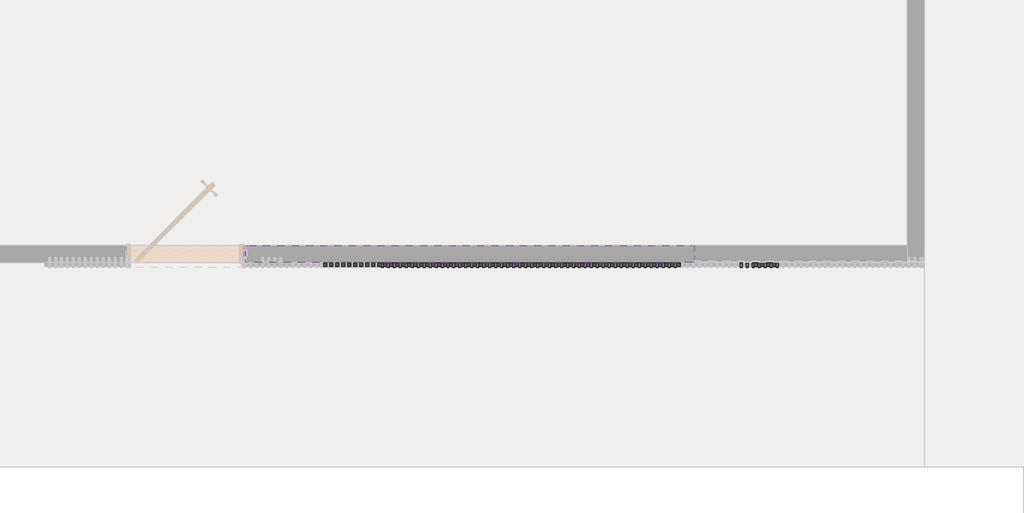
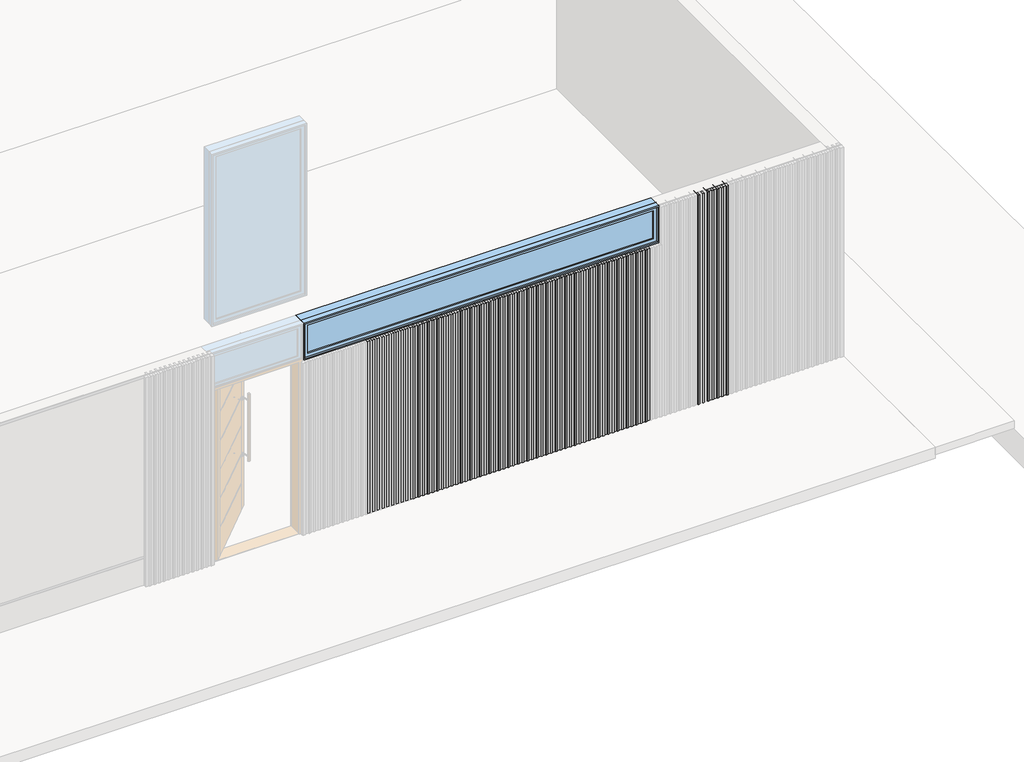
# One storey, part 3 of 4: 64 members, 57 plates, 1 window.
"""IFC4 building model written with IfcOpenShell, lengths in millimetres."""

import ifcopenshell
import ifcopenshell.guid

model = None  # the IFC model being written
_history = None  # IfcOwnerHistory: only IFC2X3 demands one
_inside = {}  # id of a spatial element -> (the spatial element, [elements in it])
_under = {}  # id of a project, library or spatial element -> (it, [spatial elements below it])
_declared = {}  # id of a project -> (the project, [libraries it declares])
_typed = {}  # id of a type object -> (the type object, [elements of that type])
_made_of = {}  # id of a material, layer set ... -> (it, [elements and type objects made of it])


def new_model(schema):
    """Start an empty IFC model of exactly this schema.

    Asked for "IFC4X3", IfcOpenShell would pick the latest addendum, in which some entities
    have other attributes; the version numbers below select the first issue.
    IFC2X3 requires an IfcOwnerHistory on every rooted entity: one is made here for all.
    """
    global model, _history
    if schema == "IFC4X3":
        model = ifcopenshell.file(schema_version=(4, 3, 0, 0))
    else:
        model = ifcopenshell.file(schema=schema)
    _inside.clear()
    _under.clear()
    _declared.clear()
    _typed.clear()
    _made_of.clear()
    _history = None
    if model.schema == "IFC2X3":
        org = make("IfcOrganization", Name="unknown")
        user = make(
            "IfcPersonAndOrganization",
            ThePerson=make("IfcPerson", FamilyName="unknown"),
            TheOrganization=org,
        )
        app = make(
            "IfcApplication",
            ApplicationDeveloper=org,
            Version="unknown",
            ApplicationFullName="unknown",
            ApplicationIdentifier="unknown",
        )
        _history = make(
            "IfcOwnerHistory",
            OwningUser=user,
            OwningApplication=app,
            ChangeAction="ADDED",
            CreationDate=0,
        )
    return model


def make(cls, **values):
    """One entity of the class cls with the attributes given. An attribute that is None is left unset."""
    return model.create_entity(
        cls, **{name: value for name, value in values.items() if value is not None}
    )


def rooted(cls, **values):
    """An entity with a GlobalId (a new one), such as an element, a storey or a relation."""
    return make(cls, GlobalId=ifcopenshell.guid.new(), OwnerHistory=_history, **values)


def si_unit(unit_type, name, prefix=None):
    """IfcSIUnit, for example si_unit("LENGTHUNIT", "METRE", prefix="MILLI")."""
    return make("IfcSIUnit", UnitType=unit_type, Prefix=prefix, Name=name)


def assignment(units):
    """IfcUnitAssignment: the units of a project."""
    return None if units is None else make("IfcUnitAssignment", Units=units)


def point(xyz):
    """IfcCartesianPoint."""
    return None if xyz is None else make("IfcCartesianPoint", Coordinates=xyz)


def direction(xyz):
    """IfcDirection."""
    return None if xyz is None else make("IfcDirection", DirectionRatios=xyz)


def frame(location, z_axis=None, x_axis=None):
    """IfcAxis2Placement3D, a coordinate frame: its origin and axes. An axis left out is left unset."""
    return make(
        "IfcAxis2Placement3D",
        Location=point(location),
        Axis=direction(z_axis),
        RefDirection=direction(x_axis),
    )


def origin():
    """The frame at (0, 0, 0) with its axes left unset."""
    return frame((0.0, 0.0, 0.0))


def origin_with_axes():
    """The frame at (0, 0, 0) with the z axis (0, 0, 1) and the x axis (1, 0, 0) written out."""
    return frame((0.0, 0.0, 0.0), z_axis=(0.0, 0.0, 1.0), x_axis=(1.0, 0.0, 0.0))


def place(relative_to, where):
    """IfcLocalPlacement: puts the frame where relative to a parent placement (None: the world)."""
    return make(
        "IfcLocalPlacement", PlacementRelTo=relative_to, RelativePlacement=where
    )


def context(
    kind, dimensions, precision=None, world=None, true_north=None, identifier=None
):
    """IfcGeometricRepresentationContext, for example the 3D "Model" context."""
    return make(
        "IfcGeometricRepresentationContext",
        ContextIdentifier=identifier,
        ContextType=kind,
        CoordinateSpaceDimension=dimensions,
        Precision=precision,
        WorldCoordinateSystem=world,
        TrueNorth=true_north,
    )


def project(units=None, contexts=None):
    """IfcProject with its units and contexts."""
    return rooted(
        "IfcProject",
        Name="project",
        RepresentationContexts=contexts,
        UnitsInContext=assignment(units),
    )


def spatial(cls, under=None, at=None, **own):
    """A site, building, storey or space (cls), placed at a placement, below another one or the project."""
    s = rooted(cls, ObjectPlacement=at, **own)
    if under is not None:
        _under.setdefault(under.id(), (under, []))[1].append(s)
    return s


def polyline(points):
    """IfcPolyline through the points."""
    return make("IfcPolyline", Points=[point(p) for p in points])


def outline(outer, holes=None, kind="AREA"):
    """IfcArbitraryClosedProfileDef: a profile drawn as a closed curve; with holes, ...WithVoids."""
    if holes is None:
        return make("IfcArbitraryClosedProfileDef", ProfileType=kind, OuterCurve=outer)
    return make(
        "IfcArbitraryProfileDefWithVoids",
        ProfileType=kind,
        OuterCurve=outer,
        InnerCurves=holes,
    )


def extrude(swept, where, along, depth):
    """IfcExtrudedAreaSolid: the profile swept, set in the frame where, extruded along a direction by depth."""
    return make(
        "IfcExtrudedAreaSolid",
        SweptArea=swept,
        Position=where,
        ExtrudedDirection=direction(along),
        Depth=depth,
    )


def shape(context_of_items, identifier, shape_type, items):
    """IfcShapeRepresentation: the items that make up one representation, for example the "Body"."""
    return make(
        "IfcShapeRepresentation",
        ContextOfItems=context_of_items,
        RepresentationIdentifier=identifier,
        RepresentationType=shape_type,
        Items=items,
    )


def source(mapping_origin, context_of_items, identifier, shape_type, items):
    """IfcRepresentationMap: a shape defined once, which mapped items show again and again."""
    return make(
        "IfcRepresentationMap",
        MappingOrigin=mapping_origin,
        MappedRepresentation=shape(context_of_items, identifier, shape_type, items),
    )


def transform(
    local_origin,
    x_axis=None,
    y_axis=None,
    z_axis=None,
    scale=None,
    scale2=None,
    scale3=None,
    uniform=True,
):
    """IfcCartesianTransformationOperator3D, or its non-uniform kind. x_axis, y_axis, z_axis: its Axis1, 2, 3."""
    if uniform:
        return make(
            "IfcCartesianTransformationOperator3D",
            Axis1=direction(x_axis),
            Axis2=direction(y_axis),
            LocalOrigin=point(local_origin),
            Scale=scale,
            Axis3=direction(z_axis),
        )
    return make(
        "IfcCartesianTransformationOperator3DnonUniform",
        Axis1=direction(x_axis),
        Axis2=direction(y_axis),
        LocalOrigin=point(local_origin),
        Scale=scale,
        Axis3=direction(z_axis),
        Scale2=scale2,
        Scale3=scale3,
    )


def mapped(mapping_source, mapping_target):
    """IfcMappedItem: shows the shape of a source again, moved by a transform."""
    return make(
        "IfcMappedItem", MappingSource=mapping_source, MappingTarget=mapping_target
    )


def made_of(thing, what):
    """Note that an element or type object is made of a material, layer set ...; save() writes the relation."""
    if what is not None:
        _made_of.setdefault(what.id(), (what, []))[1].append(thing)
    return thing


def element(
    cls,
    number,
    at=None,
    inside=None,
    cuts=None,
    type_object=None,
    material=None,
    context=None,
    identifier="Body",
    shape_type=None,
    held_by="IfcProductDefinitionShape",
    body=None,
    shapes=None,
    **own,
):
    """One element of the class cls, such as IfcWall. Its Tag is "e" and its number.

    at: its placement. inside: the storey or other place that contains it. cuts: it is an
    opening in that element (IfcRelVoidsElement). A single representation is given by context,
    identifier, shape_type and body (its items); several are given by shapes. held_by: the class
    of the entity that holds the representations. save() writes the other relations.
    """
    e = rooted(cls, Tag="e%d" % number, ObjectPlacement=at, **own)
    if body is not None:
        shapes = [shape(context, identifier, shape_type, body)]
    if shapes is not None:
        e.Representation = make(held_by, Representations=shapes)
    if inside is not None:
        _inside.setdefault(inside.id(), (inside, []))[1].append(e)
    if cuts is not None:
        rooted(
            "IfcRelVoidsElement", RelatingBuildingElement=cuts, RelatedOpeningElement=e
        )
    if type_object is not None:
        _typed.setdefault(type_object.id(), (type_object, []))[1].append(e)
    return made_of(e, material)


def aggregate(whole, parts):
    """IfcRelAggregates: a whole, such as a stair, and the parts it consists of."""
    return rooted("IfcRelAggregates", RelatingObject=whole, RelatedObjects=parts)


def save(model, path):
    """Write the relations noted so far, then the file.

    IfcRelAggregates (storeys below a building ...), IfcRelContainedInSpatialStructure (elements
    in a storey), IfcRelDefinesByType, IfcRelAssociatesMaterial and IfcRelDeclares: one each for
    every whole, place, type object, material and project.
    """
    for whole, parts in _under.values():
        aggregate(whole, parts)
    for where, things in _inside.values():
        rooted(
            "IfcRelContainedInSpatialStructure",
            RelatedElements=things,
            RelatingStructure=where,
        )
    for kind, things in _typed.values():
        rooted("IfcRelDefinesByType", RelatedObjects=things, RelatingType=kind)
    for what, things in _made_of.values():
        rooted("IfcRelAssociatesMaterial", RelatedObjects=things, RelatingMaterial=what)
    for by, libraries in _declared.values():
        rooted("IfcRelDeclares", RelatingContext=by, RelatedDefinitions=libraries)
    model.write(path)


def montante_retangular_912e170b(model_context):
    return source(origin(), model_context, "Body", "SweptSolid", [
        extrude(outline(polyline([(20.0, 40.0), (20.0, 0.0), (-20.0, 0.0), (-20.0, 40.0), (20.0, 40.0)])), frame((0.0, 0.0, -2800.0), z_axis=(0.0, 0.0, 1.0), x_axis=(1.0, 0.0, 0.0)), (0.0, 0.0, 1.0), 2800.0),
    ])


def montante_retangular_66be1dba(model_context):
    return source(origin(), model_context, "Body", "SweptSolid", [
        extrude(outline(polyline([(20.0, 40.0), (20.0, 0.0), (-20.0, 0.0), (-20.0, 40.0), (20.0, 40.0)])), frame((0.0, 0.0, -2300.0), z_axis=(0.0, 0.0, 1.0), x_axis=(1.0, 0.0, 0.0)), (0.0, 0.0, 1.0), 2300.0),
    ])


def painel_do_sistema_vazio_vazio_22f7d0d9(model_context):
    return source(origin(), model_context, "Body", "SweptSolid", [
        extrude(outline(polyline([(10.0, -50.0), (-10.0, -50.0), (-10.0, 50.0), (10.0, 50.0), (10.0, -50.0)])), origin_with_axes(), (0.0, 0.0, 1.0), 2800.0),
    ])


def painel_do_sistema_vazio_vazio_0f527706(model_context):
    return source(origin(), model_context, "Body", "SweptSolid", [
        extrude(outline(polyline([(10.0, -50.0), (-10.0, -50.0), (-10.0, 50.0), (10.0, 50.0), (10.0, -50.0)])), origin_with_axes(), (0.0, 0.0, 1.0), 2300.0),
    ])


def m_fixo_parede_completa_preta_0_5m_2_7aad5a8b(model_context):
    return source(origin(), model_context, "Body", "SweptSolid", [
        extrude(outline(polyline([(-2187.0, 62.0), (2187.0, 62.0), (2187.0, 50.0), (-2187.0, 50.0), (-2187.0, 62.0)])), frame((0.0, 0.0, 1563.0), z_axis=(0.0, 0.0, 1.0), x_axis=(1.0, 0.0, 0.0)), (0.0, 0.0, 1.0), 374.0),
        extrude(outline(polyline([(1981.0, -2231.0), (1519.0, -2231.0), (1519.0, 2231.0), (1981.0, 2231.0), (1981.0, -2231.0)]), holes=[polyline([(1937.0, -2187.0), (1937.0, 2187.0), (1563.0, 2187.0), (1563.0, -2187.0), (1937.0, -2187.0)])]), frame((0.0, 34.0, 0.0), z_axis=(0.0, 1.0, 0.0), x_axis=(0.0, 0.0, 1.0)), (0.0, 0.0, 1.0), 44.0),
        extrude(outline(polyline([(2000.0, -2250.0), (1500.0, -2250.0), (1500.0, 2250.0), (2000.0, 2250.0), (2000.0, -2250.0)]), holes=[polyline([(1981.0, -2231.0), (1981.0, 2231.0), (1519.0, 2231.0), (1519.0, -2231.0), (1981.0, -2231.0)])]), frame((0.0, 34.0, 0.0), z_axis=(0.0, 1.0, 0.0), x_axis=(0.0, 0.0, 1.0)), (0.0, 0.0, 1.0), 64.0),
        extrude(outline(polyline([(2000.0, -2250.0), (1500.0, -2250.0), (1500.0, 2250.0), (2000.0, 2250.0), (2000.0, -2250.0)]), holes=[polyline([(1968.0, -2218.0), (1968.0, 2218.0), (1532.0, 2218.0), (1532.0, -2218.0), (1968.0, -2218.0)])]), frame((0.0, -72.0, 0.0), z_axis=(0.0, 1.0, 0.0), x_axis=(0.0, 0.0, 1.0)), (0.0, 0.0, 1.0), 106.0),
    ])


model = new_model("IFC4")

# Units and contexts
model_context = context("Model", 3, world=origin())
ifc_project = project(units=[si_unit("LENGTHUNIT", "METRE", prefix="MILLI")], contexts=[model_context])

# Site, building, storey
site = spatial("IfcSite", under=ifc_project)
building = spatial("IfcBuilding", under=site)
storey = spatial("IfcBuildingStorey", under=building, Name="TÉRREO", Elevation=100.0)

# Members
placement = place(None, origin())
montante_retangular_shape = montante_retangular_912e170b(model_context)
element("IfcMember", 1, ObjectType="Montante retangular : RIPADO CUMARU 4x4", at=placement, inside=storey, context=model_context, shape_type="MappedRepresentation", body=[
    mapped(montante_retangular_shape, transform((-1166.5118358, -3183.0556256, 100.0), x_axis=(1.0, 0.0, 0.0), y_axis=(0.0, -1.0, 0.0), z_axis=(0.0, 0.0, -1.0))),
])
element("IfcMember", 2, ObjectType="Montante retangular : RIPADO CUMARU 4x4", at=placement, inside=storey, context=model_context, shape_type="MappedRepresentation", body=[
    mapped(montante_retangular_shape, transform((-1106.5118358, -3183.0556256, 100.0), x_axis=(1.0, 0.0, 0.0), y_axis=(0.0, -1.0, 0.0), z_axis=(0.0, 0.0, -1.0))),
])
element("IfcMember", 3, ObjectType="Montante retangular : RIPADO CUMARU 4x4", at=placement, inside=storey, context=model_context, shape_type="MappedRepresentation", body=[
    mapped(montante_retangular_shape, transform((-1046.5118358, -3183.0556256, 100.0), x_axis=(1.0, 0.0, 0.0), y_axis=(0.0, -1.0, 0.0), z_axis=(0.0, 0.0, -1.0))),
])
element("IfcMember", 4, ObjectType="Montante retangular : RIPADO CUMARU 4x4", at=placement, inside=storey, context=model_context, shape_type="MappedRepresentation", body=[
    mapped(montante_retangular_shape, transform((-1226.5118358, -3183.0556256, 100.0), x_axis=(1.0, 0.0, 0.0), y_axis=(0.0, -1.0, 0.0), z_axis=(0.0, 0.0, -1.0))),
])
montante_retangular_2_shape = montante_retangular_66be1dba(model_context)
element("IfcMember", 5, ObjectType="Montante retangular : RIPADO CUMARU 4x4", at=placement, inside=storey, context=model_context, shape_type="MappedRepresentation", body=[
    mapped(montante_retangular_2_shape, transform((-5551.5118352, -3183.0556256, 100.0), x_axis=(1.0, 0.0, 0.0), y_axis=(0.0, -1.0, 0.0), z_axis=(0.0, 0.0, -1.0))),
])
element("IfcMember", 6, ObjectType="Montante retangular : RIPADO CUMARU 4x4", at=placement, inside=storey, context=model_context, shape_type="MappedRepresentation", body=[
    mapped(montante_retangular_2_shape, transform((-5491.5118352, -3183.0556256, 100.0), x_axis=(1.0, 0.0, 0.0), y_axis=(0.0, -1.0, 0.0), z_axis=(0.0, 0.0, -1.0))),
])
element("IfcMember", 7, ObjectType="Montante retangular : RIPADO CUMARU 4x4", at=placement, inside=storey, context=model_context, shape_type="MappedRepresentation", body=[
    mapped(montante_retangular_2_shape, transform((-5431.5118352, -3183.0556256, 100.0), x_axis=(1.0, 0.0, 0.0), y_axis=(0.0, -1.0, 0.0), z_axis=(0.0, 0.0, -1.0))),
])
element("IfcMember", 8, ObjectType="Montante retangular : RIPADO CUMARU 4x4", at=placement, inside=storey, context=model_context, shape_type="MappedRepresentation", body=[
    mapped(montante_retangular_2_shape, transform((-5371.5118352, -3183.0556256, 100.0), x_axis=(1.0, 0.0, 0.0), y_axis=(0.0, -1.0, 0.0), z_axis=(0.0, 0.0, -1.0))),
])
element("IfcMember", 9, ObjectType="Montante retangular : RIPADO CUMARU 4x4", at=placement, inside=storey, context=model_context, shape_type="MappedRepresentation", body=[
    mapped(montante_retangular_2_shape, transform((-5311.5118352, -3183.0556256, 100.0), x_axis=(1.0, 0.0, 0.0), y_axis=(0.0, -1.0, 0.0), z_axis=(0.0, 0.0, -1.0))),
])
element("IfcMember", 10, ObjectType="Montante retangular : RIPADO CUMARU 4x4", at=placement, inside=storey, context=model_context, shape_type="MappedRepresentation", body=[
    mapped(montante_retangular_2_shape, transform((-5251.5118352, -3183.0556256, 100.0), x_axis=(1.0, 0.0, 0.0), y_axis=(0.0, -1.0, 0.0), z_axis=(0.0, 0.0, -1.0))),
])
element("IfcMember", 11, ObjectType="Montante retangular : RIPADO CUMARU 4x4", at=placement, inside=storey, context=model_context, shape_type="MappedRepresentation", body=[
    mapped(montante_retangular_2_shape, transform((-5191.5118352, -3183.0556256, 100.0), x_axis=(1.0, 0.0, 0.0), y_axis=(0.0, -1.0, 0.0), z_axis=(0.0, 0.0, -1.0))),
])
element("IfcMember", 12, ObjectType="Montante retangular : RIPADO CUMARU 4x4", at=placement, inside=storey, context=model_context, shape_type="MappedRepresentation", body=[
    mapped(montante_retangular_2_shape, transform((-5131.5118352, -3183.0556256, 100.0), x_axis=(1.0, 0.0, 0.0), y_axis=(0.0, -1.0, 0.0), z_axis=(0.0, 0.0, -1.0))),
])
element("IfcMember", 13, ObjectType="Montante retangular : RIPADO CUMARU 4x4", at=placement, inside=storey, context=model_context, shape_type="MappedRepresentation", body=[
    mapped(montante_retangular_2_shape, transform((-5071.5118352, -3183.0556256, 100.0), x_axis=(1.0, 0.0, 0.0), y_axis=(0.0, -1.0, 0.0), z_axis=(0.0, 0.0, -1.0))),
])
element("IfcMember", 14, ObjectType="Montante retangular : RIPADO CUMARU 4x4", at=placement, inside=storey, context=model_context, shape_type="MappedRepresentation", body=[
    mapped(montante_retangular_2_shape, transform((-5011.5118352, -3183.0556256, 100.0), x_axis=(1.0, 0.0, 0.0), y_axis=(0.0, -1.0, 0.0), z_axis=(0.0, 0.0, -1.0))),
])
element("IfcMember", 15, ObjectType="Montante retangular : RIPADO CUMARU 4x4", at=placement, inside=storey, context=model_context, shape_type="MappedRepresentation", body=[
    mapped(montante_retangular_2_shape, transform((-4951.5118352, -3183.0556256, 100.0), x_axis=(1.0, 0.0, 0.0), y_axis=(0.0, -1.0, 0.0), z_axis=(0.0, 0.0, -1.0))),
])
element("IfcMember", 16, ObjectType="Montante retangular : RIPADO CUMARU 4x4", at=placement, inside=storey, context=model_context, shape_type="MappedRepresentation", body=[
    mapped(montante_retangular_2_shape, transform((-4891.5118352, -3183.0556256, 100.0), x_axis=(1.0, 0.0, 0.0), y_axis=(0.0, -1.0, 0.0), z_axis=(0.0, 0.0, -1.0))),
])
element("IfcMember", 17, ObjectType="Montante retangular : RIPADO CUMARU 4x4", at=placement, inside=storey, context=model_context, shape_type="MappedRepresentation", body=[
    mapped(montante_retangular_2_shape, transform((-4831.5118352, -3183.0556256, 100.0), x_axis=(1.0, 0.0, 0.0), y_axis=(0.0, -1.0, 0.0), z_axis=(0.0, 0.0, -1.0))),
])
element("IfcMember", 18, ObjectType="Montante retangular : RIPADO CUMARU 4x4", at=placement, inside=storey, context=model_context, shape_type="MappedRepresentation", body=[
    mapped(montante_retangular_2_shape, transform((-4771.5118352, -3183.0556256, 100.0), x_axis=(1.0, 0.0, 0.0), y_axis=(0.0, -1.0, 0.0), z_axis=(0.0, 0.0, -1.0))),
])
element("IfcMember", 19, ObjectType="Montante retangular : RIPADO CUMARU 4x4", at=placement, inside=storey, context=model_context, shape_type="MappedRepresentation", body=[
    mapped(montante_retangular_2_shape, transform((-4711.5118352, -3183.0556256, 100.0), x_axis=(1.0, 0.0, 0.0), y_axis=(0.0, -1.0, 0.0), z_axis=(0.0, 0.0, -1.0))),
])
element("IfcMember", 20, ObjectType="Montante retangular : RIPADO CUMARU 4x4", at=placement, inside=storey, context=model_context, shape_type="MappedRepresentation", body=[
    mapped(montante_retangular_2_shape, transform((-4651.5118352, -3183.0556256, 100.0), x_axis=(1.0, 0.0, 0.0), y_axis=(0.0, -1.0, 0.0), z_axis=(0.0, 0.0, -1.0))),
])
element("IfcMember", 21, ObjectType="Montante retangular : RIPADO CUMARU 4x4", at=placement, inside=storey, context=model_context, shape_type="MappedRepresentation", body=[
    mapped(montante_retangular_2_shape, transform((-4591.5118352, -3183.0556256, 100.0), x_axis=(1.0, 0.0, 0.0), y_axis=(0.0, -1.0, 0.0), z_axis=(0.0, 0.0, -1.0))),
])
element("IfcMember", 22, ObjectType="Montante retangular : RIPADO CUMARU 4x4", at=placement, inside=storey, context=model_context, shape_type="MappedRepresentation", body=[
    mapped(montante_retangular_2_shape, transform((-4531.5118352, -3183.0556256, 100.0), x_axis=(1.0, 0.0, 0.0), y_axis=(0.0, -1.0, 0.0), z_axis=(0.0, 0.0, -1.0))),
])
element("IfcMember", 23, ObjectType="Montante retangular : RIPADO CUMARU 4x4", at=placement, inside=storey, context=model_context, shape_type="MappedRepresentation", body=[
    mapped(montante_retangular_2_shape, transform((-4471.5118352, -3183.0556256, 100.0), x_axis=(1.0, 0.0, 0.0), y_axis=(0.0, -1.0, 0.0), z_axis=(0.0, 0.0, -1.0))),
])
element("IfcMember", 24, ObjectType="Montante retangular : RIPADO CUMARU 4x4", at=placement, inside=storey, context=model_context, shape_type="MappedRepresentation", body=[
    mapped(montante_retangular_2_shape, transform((-4411.5118352, -3183.0556256, 100.0), x_axis=(1.0, 0.0, 0.0), y_axis=(0.0, -1.0, 0.0), z_axis=(0.0, 0.0, -1.0))),
])
element("IfcMember", 25, ObjectType="Montante retangular : RIPADO CUMARU 4x4", at=placement, inside=storey, context=model_context, shape_type="MappedRepresentation", body=[
    mapped(montante_retangular_2_shape, transform((-4351.5118352, -3183.0556256, 100.0), x_axis=(1.0, 0.0, 0.0), y_axis=(0.0, -1.0, 0.0), z_axis=(0.0, 0.0, -1.0))),
])
element("IfcMember", 26, ObjectType="Montante retangular : RIPADO CUMARU 4x4", at=placement, inside=storey, context=model_context, shape_type="MappedRepresentation", body=[
    mapped(montante_retangular_2_shape, transform((-4291.5118352, -3183.0556256, 100.0), x_axis=(1.0, 0.0, 0.0), y_axis=(0.0, -1.0, 0.0), z_axis=(0.0, 0.0, -1.0))),
])
element("IfcMember", 27, ObjectType="Montante retangular : RIPADO CUMARU 4x4", at=placement, inside=storey, context=model_context, shape_type="MappedRepresentation", body=[
    mapped(montante_retangular_2_shape, transform((-4231.5118352, -3183.0556256, 100.0), x_axis=(1.0, 0.0, 0.0), y_axis=(0.0, -1.0, 0.0), z_axis=(0.0, 0.0, -1.0))),
])
element("IfcMember", 28, ObjectType="Montante retangular : RIPADO CUMARU 4x4", at=placement, inside=storey, context=model_context, shape_type="MappedRepresentation", body=[
    mapped(montante_retangular_2_shape, transform((-4171.5118352, -3183.0556256, 100.0), x_axis=(1.0, 0.0, 0.0), y_axis=(0.0, -1.0, 0.0), z_axis=(0.0, 0.0, -1.0))),
])
element("IfcMember", 29, ObjectType="Montante retangular : RIPADO CUMARU 4x4", at=placement, inside=storey, context=model_context, shape_type="MappedRepresentation", body=[
    mapped(montante_retangular_2_shape, transform((-4111.5118352, -3183.0556256, 100.0), x_axis=(1.0, 0.0, 0.0), y_axis=(0.0, -1.0, 0.0), z_axis=(0.0, 0.0, -1.0))),
])
element("IfcMember", 30, ObjectType="Montante retangular : RIPADO CUMARU 4x4", at=placement, inside=storey, context=model_context, shape_type="MappedRepresentation", body=[
    mapped(montante_retangular_2_shape, transform((-4051.5118352, -3183.0556256, 100.0), x_axis=(1.0, 0.0, 0.0), y_axis=(0.0, -1.0, 0.0), z_axis=(0.0, 0.0, -1.0))),
])
element("IfcMember", 31, ObjectType="Montante retangular : RIPADO CUMARU 4x4", at=placement, inside=storey, context=model_context, shape_type="MappedRepresentation", body=[
    mapped(montante_retangular_2_shape, transform((-3991.5118352, -3183.0556256, 100.0), x_axis=(1.0, 0.0, 0.0), y_axis=(0.0, -1.0, 0.0), z_axis=(0.0, 0.0, -1.0))),
])
element("IfcMember", 32, ObjectType="Montante retangular : RIPADO CUMARU 4x4", at=placement, inside=storey, context=model_context, shape_type="MappedRepresentation", body=[
    mapped(montante_retangular_2_shape, transform((-3931.5118352, -3183.0556256, 100.0), x_axis=(1.0, 0.0, 0.0), y_axis=(0.0, -1.0, 0.0), z_axis=(0.0, 0.0, -1.0))),
])
element("IfcMember", 33, ObjectType="Montante retangular : RIPADO CUMARU 4x4", at=placement, inside=storey, context=model_context, shape_type="MappedRepresentation", body=[
    mapped(montante_retangular_2_shape, transform((-3871.5118352, -3183.0556256, 100.0), x_axis=(1.0, 0.0, 0.0), y_axis=(0.0, -1.0, 0.0), z_axis=(0.0, 0.0, -1.0))),
])
element("IfcMember", 34, ObjectType="Montante retangular : RIPADO CUMARU 4x4", at=placement, inside=storey, context=model_context, shape_type="MappedRepresentation", body=[
    mapped(montante_retangular_2_shape, transform((-3811.5118352, -3183.0556256, 100.0), x_axis=(1.0, 0.0, 0.0), y_axis=(0.0, -1.0, 0.0), z_axis=(0.0, 0.0, -1.0))),
])
element("IfcMember", 35, ObjectType="Montante retangular : RIPADO CUMARU 4x4", at=placement, inside=storey, context=model_context, shape_type="MappedRepresentation", body=[
    mapped(montante_retangular_2_shape, transform((-3751.5118352, -3183.0556256, 100.0), x_axis=(1.0, 0.0, 0.0), y_axis=(0.0, -1.0, 0.0), z_axis=(0.0, 0.0, -1.0))),
])
element("IfcMember", 36, ObjectType="Montante retangular : RIPADO CUMARU 4x4", at=placement, inside=storey, context=model_context, shape_type="MappedRepresentation", body=[
    mapped(montante_retangular_2_shape, transform((-3691.5118352, -3183.0556256, 100.0), x_axis=(1.0, 0.0, 0.0), y_axis=(0.0, -1.0, 0.0), z_axis=(0.0, 0.0, -1.0))),
])
element("IfcMember", 37, ObjectType="Montante retangular : RIPADO CUMARU 4x4", at=placement, inside=storey, context=model_context, shape_type="MappedRepresentation", body=[
    mapped(montante_retangular_2_shape, transform((-3631.5118352, -3183.0556256, 100.0), x_axis=(1.0, 0.0, 0.0), y_axis=(0.0, -1.0, 0.0), z_axis=(0.0, 0.0, -1.0))),
])
element("IfcMember", 38, ObjectType="Montante retangular : RIPADO CUMARU 4x4", at=placement, inside=storey, context=model_context, shape_type="MappedRepresentation", body=[
    mapped(montante_retangular_2_shape, transform((-3571.5118352, -3183.0556256, 100.0), x_axis=(1.0, 0.0, 0.0), y_axis=(0.0, -1.0, 0.0), z_axis=(0.0, 0.0, -1.0))),
])
element("IfcMember", 39, ObjectType="Montante retangular : RIPADO CUMARU 4x4", at=placement, inside=storey, context=model_context, shape_type="MappedRepresentation", body=[
    mapped(montante_retangular_2_shape, transform((-3511.5118352, -3183.0556256, 100.0), x_axis=(1.0, 0.0, 0.0), y_axis=(0.0, -1.0, 0.0), z_axis=(0.0, 0.0, -1.0))),
])
element("IfcMember", 40, ObjectType="Montante retangular : RIPADO CUMARU 4x4", at=placement, inside=storey, context=model_context, shape_type="MappedRepresentation", body=[
    mapped(montante_retangular_2_shape, transform((-3451.5118352, -3183.0556256, 100.0), x_axis=(1.0, 0.0, 0.0), y_axis=(0.0, -1.0, 0.0), z_axis=(0.0, 0.0, -1.0))),
])
element("IfcMember", 41, ObjectType="Montante retangular : RIPADO CUMARU 4x4", at=placement, inside=storey, context=model_context, shape_type="MappedRepresentation", body=[
    mapped(montante_retangular_2_shape, transform((-3391.5118352, -3183.0556256, 100.0), x_axis=(1.0, 0.0, 0.0), y_axis=(0.0, -1.0, 0.0), z_axis=(0.0, 0.0, -1.0))),
])
element("IfcMember", 42, ObjectType="Montante retangular : RIPADO CUMARU 4x4", at=placement, inside=storey, context=model_context, shape_type="MappedRepresentation", body=[
    mapped(montante_retangular_2_shape, transform((-3331.5118352, -3183.0556256, 100.0), x_axis=(1.0, 0.0, 0.0), y_axis=(0.0, -1.0, 0.0), z_axis=(0.0, 0.0, -1.0))),
])
element("IfcMember", 43, ObjectType="Montante retangular : RIPADO CUMARU 4x4", at=placement, inside=storey, context=model_context, shape_type="MappedRepresentation", body=[
    mapped(montante_retangular_2_shape, transform((-3271.5118352, -3183.0556256, 100.0), x_axis=(1.0, 0.0, 0.0), y_axis=(0.0, -1.0, 0.0), z_axis=(0.0, 0.0, -1.0))),
])
element("IfcMember", 44, ObjectType="Montante retangular : RIPADO CUMARU 4x4", at=placement, inside=storey, context=model_context, shape_type="MappedRepresentation", body=[
    mapped(montante_retangular_2_shape, transform((-3211.5118352, -3183.0556256, 100.0), x_axis=(1.0, 0.0, 0.0), y_axis=(0.0, -1.0, 0.0), z_axis=(0.0, 0.0, -1.0))),
])
element("IfcMember", 45, ObjectType="Montante retangular : RIPADO CUMARU 4x4", at=placement, inside=storey, context=model_context, shape_type="MappedRepresentation", body=[
    mapped(montante_retangular_2_shape, transform((-3151.5118352, -3183.0556256, 100.0), x_axis=(1.0, 0.0, 0.0), y_axis=(0.0, -1.0, 0.0), z_axis=(0.0, 0.0, -1.0))),
])
element("IfcMember", 46, ObjectType="Montante retangular : RIPADO CUMARU 4x4", at=placement, inside=storey, context=model_context, shape_type="MappedRepresentation", body=[
    mapped(montante_retangular_2_shape, transform((-3091.5118352, -3183.0556256, 100.0), x_axis=(1.0, 0.0, 0.0), y_axis=(0.0, -1.0, 0.0), z_axis=(0.0, 0.0, -1.0))),
])
element("IfcMember", 47, ObjectType="Montante retangular : RIPADO CUMARU 4x4", at=placement, inside=storey, context=model_context, shape_type="MappedRepresentation", body=[
    mapped(montante_retangular_2_shape, transform((-3031.5118352, -3183.0556256, 100.0), x_axis=(1.0, 0.0, 0.0), y_axis=(0.0, -1.0, 0.0), z_axis=(0.0, 0.0, -1.0))),
])
element("IfcMember", 48, ObjectType="Montante retangular : RIPADO CUMARU 4x4", at=placement, inside=storey, context=model_context, shape_type="MappedRepresentation", body=[
    mapped(montante_retangular_2_shape, transform((-2971.5118352, -3183.0556256, 100.0), x_axis=(1.0, 0.0, 0.0), y_axis=(0.0, -1.0, 0.0), z_axis=(0.0, 0.0, -1.0))),
])
element("IfcMember", 49, ObjectType="Montante retangular : RIPADO CUMARU 4x4", at=placement, inside=storey, context=model_context, shape_type="MappedRepresentation", body=[
    mapped(montante_retangular_2_shape, transform((-2911.5118352, -3183.0556256, 100.0), x_axis=(1.0, 0.0, 0.0), y_axis=(0.0, -1.0, 0.0), z_axis=(0.0, 0.0, -1.0))),
])
element("IfcMember", 50, ObjectType="Montante retangular : RIPADO CUMARU 4x4", at=placement, inside=storey, context=model_context, shape_type="MappedRepresentation", body=[
    mapped(montante_retangular_2_shape, transform((-2851.5118352, -3183.0556256, 100.0), x_axis=(1.0, 0.0, 0.0), y_axis=(0.0, -1.0, 0.0), z_axis=(0.0, 0.0, -1.0))),
])
element("IfcMember", 51, ObjectType="Montante retangular : RIPADO CUMARU 4x4", at=placement, inside=storey, context=model_context, shape_type="MappedRepresentation", body=[
    mapped(montante_retangular_2_shape, transform((-2791.5118352, -3183.0556256, 100.0), x_axis=(1.0, 0.0, 0.0), y_axis=(0.0, -1.0, 0.0), z_axis=(0.0, 0.0, -1.0))),
])
element("IfcMember", 52, ObjectType="Montante retangular : RIPADO CUMARU 4x4", at=placement, inside=storey, context=model_context, shape_type="MappedRepresentation", body=[
    mapped(montante_retangular_2_shape, transform((-2731.5118352, -3183.0556256, 100.0), x_axis=(1.0, 0.0, 0.0), y_axis=(0.0, -1.0, 0.0), z_axis=(0.0, 0.0, -1.0))),
])
element("IfcMember", 53, ObjectType="Montante retangular : RIPADO CUMARU 4x4", at=placement, inside=storey, context=model_context, shape_type="MappedRepresentation", body=[
    mapped(montante_retangular_2_shape, transform((-2671.5118352, -3183.0556256, 100.0), x_axis=(1.0, 0.0, 0.0), y_axis=(0.0, -1.0, 0.0), z_axis=(0.0, 0.0, -1.0))),
])
element("IfcMember", 54, ObjectType="Montante retangular : RIPADO CUMARU 4x4", at=placement, inside=storey, context=model_context, shape_type="MappedRepresentation", body=[
    mapped(montante_retangular_2_shape, transform((-2611.5118352, -3183.0556256, 100.0), x_axis=(1.0, 0.0, 0.0), y_axis=(0.0, -1.0, 0.0), z_axis=(0.0, 0.0, -1.0))),
])
element("IfcMember", 55, ObjectType="Montante retangular : RIPADO CUMARU 4x4", at=placement, inside=storey, context=model_context, shape_type="MappedRepresentation", body=[
    mapped(montante_retangular_2_shape, transform((-2551.5118352, -3183.0556256, 100.0), x_axis=(1.0, 0.0, 0.0), y_axis=(0.0, -1.0, 0.0), z_axis=(0.0, 0.0, -1.0))),
])
element("IfcMember", 56, ObjectType="Montante retangular : RIPADO CUMARU 4x4", at=placement, inside=storey, context=model_context, shape_type="MappedRepresentation", body=[
    mapped(montante_retangular_2_shape, transform((-2491.5118352, -3183.0556256, 100.0), x_axis=(1.0, 0.0, 0.0), y_axis=(0.0, -1.0, 0.0), z_axis=(0.0, 0.0, -1.0))),
])
element("IfcMember", 57, ObjectType="Montante retangular : RIPADO CUMARU 4x4", at=placement, inside=storey, context=model_context, shape_type="MappedRepresentation", body=[
    mapped(montante_retangular_2_shape, transform((-2431.5118352, -3183.0556256, 100.0), x_axis=(1.0, 0.0, 0.0), y_axis=(0.0, -1.0, 0.0), z_axis=(0.0, 0.0, -1.0))),
])
element("IfcMember", 58, ObjectType="Montante retangular : RIPADO CUMARU 4x4", at=placement, inside=storey, context=model_context, shape_type="MappedRepresentation", body=[
    mapped(montante_retangular_2_shape, transform((-2371.5118352, -3183.0556256, 100.0), x_axis=(1.0, 0.0, 0.0), y_axis=(0.0, -1.0, 0.0), z_axis=(0.0, 0.0, -1.0))),
])
element("IfcMember", 59, ObjectType="Montante retangular : RIPADO CUMARU 4x4", at=placement, inside=storey, context=model_context, shape_type="MappedRepresentation", body=[
    mapped(montante_retangular_2_shape, transform((-2311.5118352, -3183.0556256, 100.0), x_axis=(1.0, 0.0, 0.0), y_axis=(0.0, -1.0, 0.0), z_axis=(0.0, 0.0, -1.0))),
])
element("IfcMember", 60, ObjectType="Montante retangular : RIPADO CUMARU 4x4", at=placement, inside=storey, context=model_context, shape_type="MappedRepresentation", body=[
    mapped(montante_retangular_2_shape, transform((-2251.5118352, -3183.0556256, 100.0), x_axis=(1.0, 0.0, 0.0), y_axis=(0.0, -1.0, 0.0), z_axis=(0.0, 0.0, -1.0))),
])
element("IfcMember", 61, ObjectType="Montante retangular : RIPADO CUMARU 4x4", at=placement, inside=storey, context=model_context, shape_type="MappedRepresentation", body=[
    mapped(montante_retangular_2_shape, transform((-2191.5118352, -3183.0556256, 100.0), x_axis=(1.0, 0.0, 0.0), y_axis=(0.0, -1.0, 0.0), z_axis=(0.0, 0.0, -1.0))),
])
element("IfcMember", 62, ObjectType="Montante retangular : RIPADO CUMARU 4x4", at=placement, inside=storey, context=model_context, shape_type="MappedRepresentation", body=[
    mapped(montante_retangular_2_shape, transform((-2131.5118352, -3183.0556256, 100.0), x_axis=(1.0, 0.0, 0.0), y_axis=(0.0, -1.0, 0.0), z_axis=(0.0, 0.0, -1.0))),
])
element("IfcMember", 63, ObjectType="Montante retangular : RIPADO CUMARU 4x4", at=placement, inside=storey, context=model_context, shape_type="MappedRepresentation", body=[
    mapped(montante_retangular_2_shape, transform((-2071.5118352, -3183.0556256, 100.0), x_axis=(1.0, 0.0, 0.0), y_axis=(0.0, -1.0, 0.0), z_axis=(0.0, 0.0, -1.0))),
])
element("IfcMember", 64, ObjectType="Montante retangular : RIPADO CUMARU 4x4", at=placement, inside=storey, context=model_context, shape_type="MappedRepresentation", body=[
    mapped(montante_retangular_2_shape, transform((-2011.5118352, -3183.0556256, 100.0), x_axis=(1.0, 0.0, 0.0), y_axis=(0.0, -1.0, 0.0), z_axis=(0.0, 0.0, -1.0))),
])

# Plates
painel_do_sistema_vazio_vazio_shape = painel_do_sistema_vazio_vazio_22f7d0d9(model_context)
element("IfcPlate", 65, ObjectType="Painel do sistema vazio : Vazio", at=placement, inside=storey, context=model_context, shape_type="MappedRepresentation", body=[
    mapped(painel_do_sistema_vazio_vazio_shape, transform((-1136.5118358, -3183.0556256, 100.0), x_axis=(1.0, 0.0, 0.0), y_axis=(0.0, 1.0, 0.0), z_axis=(0.0, 0.0, 1.0))),
])
element("IfcPlate", 66, ObjectType="Painel do sistema vazio : Vazio", at=placement, inside=storey, context=model_context, shape_type="MappedRepresentation", body=[
    mapped(painel_do_sistema_vazio_vazio_shape, transform((-1076.5118358, -3183.0556256, 100.0), x_axis=(1.0, 0.0, 0.0), y_axis=(0.0, 1.0, 0.0), z_axis=(0.0, 0.0, 1.0))),
])
element("IfcPlate", 67, ObjectType="Painel do sistema vazio : Vazio", at=placement, inside=storey, context=model_context, shape_type="MappedRepresentation", body=[
    mapped(painel_do_sistema_vazio_vazio_shape, transform((-1016.5118358, -3183.0556256, 100.0), x_axis=(1.0, 0.0, 0.0), y_axis=(0.0, 1.0, 0.0), z_axis=(0.0, 0.0, 1.0))),
])
element("IfcPlate", 68, ObjectType="Painel do sistema vazio : Vazio", at=placement, inside=storey, context=model_context, shape_type="MappedRepresentation", body=[
    mapped(painel_do_sistema_vazio_vazio_shape, transform((-1196.5118358, -3183.0556256, 100.0), x_axis=(1.0, 0.0, 0.0), y_axis=(0.0, 1.0, 0.0), z_axis=(0.0, 0.0, 1.0))),
])
element("IfcPlate", 69, ObjectType="Painel do sistema vazio : Vazio", at=placement, inside=storey, context=model_context, shape_type="MappedRepresentation", body=[
    mapped(painel_do_sistema_vazio_vazio_shape, transform((-1256.5118358, -3183.0556256, 100.0), x_axis=(1.0, 0.0, 0.0), y_axis=(0.0, 1.0, 0.0), z_axis=(0.0, 0.0, 1.0))),
])
element("IfcPlate", 70, ObjectType="Painel do sistema vazio : Vazio", at=placement, inside=storey, context=model_context, shape_type="MappedRepresentation", body=[
    mapped(painel_do_sistema_vazio_vazio_shape, transform((-1316.5118358, -3183.0556256, 100.0), x_axis=(1.0, 0.0, 0.0), y_axis=(0.0, 1.0, 0.0), z_axis=(0.0, 0.0, 1.0))),
])
element("IfcPlate", 71, ObjectType="Painel do sistema vazio : Vazio", at=placement, inside=storey, context=model_context, shape_type="MappedRepresentation", body=[
    mapped(painel_do_sistema_vazio_vazio_shape, transform((-1376.5118358, -3183.0556256, 100.0), x_axis=(1.0, 0.0, 0.0), y_axis=(0.0, 1.0, 0.0), z_axis=(0.0, 0.0, 1.0))),
])
painel_do_sistema_vazio_vazio_2_shape = painel_do_sistema_vazio_vazio_0f527706(model_context)
element("IfcPlate", 72, ObjectType="Painel do sistema vazio : Vazio", at=placement, inside=storey, context=model_context, shape_type="MappedRepresentation", body=[
    mapped(painel_do_sistema_vazio_vazio_2_shape, transform((-4981.5118352, -3183.0556256, 100.0), x_axis=(1.0, 0.0, 0.0), y_axis=(0.0, 1.0, 0.0), z_axis=(0.0, 0.0, 1.0))),
])
element("IfcPlate", 73, ObjectType="Painel do sistema vazio : Vazio", at=placement, inside=storey, context=model_context, shape_type="MappedRepresentation", body=[
    mapped(painel_do_sistema_vazio_vazio_2_shape, transform((-4921.5118352, -3183.0556256, 100.0), x_axis=(1.0, 0.0, 0.0), y_axis=(0.0, 1.0, 0.0), z_axis=(0.0, 0.0, 1.0))),
])
element("IfcPlate", 74, ObjectType="Painel do sistema vazio : Vazio", at=placement, inside=storey, context=model_context, shape_type="MappedRepresentation", body=[
    mapped(painel_do_sistema_vazio_vazio_2_shape, transform((-4861.5118352, -3183.0556256, 100.0), x_axis=(1.0, 0.0, 0.0), y_axis=(0.0, 1.0, 0.0), z_axis=(0.0, 0.0, 1.0))),
])
element("IfcPlate", 75, ObjectType="Painel do sistema vazio : Vazio", at=placement, inside=storey, context=model_context, shape_type="MappedRepresentation", body=[
    mapped(painel_do_sistema_vazio_vazio_2_shape, transform((-4801.5118352, -3183.0556256, 100.0), x_axis=(1.0, 0.0, 0.0), y_axis=(0.0, 1.0, 0.0), z_axis=(0.0, 0.0, 1.0))),
])
element("IfcPlate", 76, ObjectType="Painel do sistema vazio : Vazio", at=placement, inside=storey, context=model_context, shape_type="MappedRepresentation", body=[
    mapped(painel_do_sistema_vazio_vazio_2_shape, transform((-4741.5118352, -3183.0556256, 100.0), x_axis=(1.0, 0.0, 0.0), y_axis=(0.0, 1.0, 0.0), z_axis=(0.0, 0.0, 1.0))),
])
element("IfcPlate", 77, ObjectType="Painel do sistema vazio : Vazio", at=placement, inside=storey, context=model_context, shape_type="MappedRepresentation", body=[
    mapped(painel_do_sistema_vazio_vazio_2_shape, transform((-4681.5118352, -3183.0556256, 100.0), x_axis=(1.0, 0.0, 0.0), y_axis=(0.0, 1.0, 0.0), z_axis=(0.0, 0.0, 1.0))),
])
element("IfcPlate", 78, ObjectType="Painel do sistema vazio : Vazio", at=placement, inside=storey, context=model_context, shape_type="MappedRepresentation", body=[
    mapped(painel_do_sistema_vazio_vazio_2_shape, transform((-4621.5118352, -3183.0556256, 100.0), x_axis=(1.0, 0.0, 0.0), y_axis=(0.0, 1.0, 0.0), z_axis=(0.0, 0.0, 1.0))),
])
element("IfcPlate", 79, ObjectType="Painel do sistema vazio : Vazio", at=placement, inside=storey, context=model_context, shape_type="MappedRepresentation", body=[
    mapped(painel_do_sistema_vazio_vazio_2_shape, transform((-4561.5118352, -3183.0556256, 100.0), x_axis=(1.0, 0.0, 0.0), y_axis=(0.0, 1.0, 0.0), z_axis=(0.0, 0.0, 1.0))),
])
element("IfcPlate", 80, ObjectType="Painel do sistema vazio : Vazio", at=placement, inside=storey, context=model_context, shape_type="MappedRepresentation", body=[
    mapped(painel_do_sistema_vazio_vazio_2_shape, transform((-4501.5118352, -3183.0556256, 100.0), x_axis=(1.0, 0.0, 0.0), y_axis=(0.0, 1.0, 0.0), z_axis=(0.0, 0.0, 1.0))),
])
element("IfcPlate", 81, ObjectType="Painel do sistema vazio : Vazio", at=placement, inside=storey, context=model_context, shape_type="MappedRepresentation", body=[
    mapped(painel_do_sistema_vazio_vazio_2_shape, transform((-4441.5118352, -3183.0556256, 100.0), x_axis=(1.0, 0.0, 0.0), y_axis=(0.0, 1.0, 0.0), z_axis=(0.0, 0.0, 1.0))),
])
element("IfcPlate", 82, ObjectType="Painel do sistema vazio : Vazio", at=placement, inside=storey, context=model_context, shape_type="MappedRepresentation", body=[
    mapped(painel_do_sistema_vazio_vazio_2_shape, transform((-4381.5118352, -3183.0556256, 100.0), x_axis=(1.0, 0.0, 0.0), y_axis=(0.0, 1.0, 0.0), z_axis=(0.0, 0.0, 1.0))),
])
element("IfcPlate", 83, ObjectType="Painel do sistema vazio : Vazio", at=placement, inside=storey, context=model_context, shape_type="MappedRepresentation", body=[
    mapped(painel_do_sistema_vazio_vazio_2_shape, transform((-4321.5118352, -3183.0556256, 100.0), x_axis=(1.0, 0.0, 0.0), y_axis=(0.0, 1.0, 0.0), z_axis=(0.0, 0.0, 1.0))),
])
element("IfcPlate", 84, ObjectType="Painel do sistema vazio : Vazio", at=placement, inside=storey, context=model_context, shape_type="MappedRepresentation", body=[
    mapped(painel_do_sistema_vazio_vazio_2_shape, transform((-4261.5118352, -3183.0556256, 100.0), x_axis=(1.0, 0.0, 0.0), y_axis=(0.0, 1.0, 0.0), z_axis=(0.0, 0.0, 1.0))),
])
element("IfcPlate", 85, ObjectType="Painel do sistema vazio : Vazio", at=placement, inside=storey, context=model_context, shape_type="MappedRepresentation", body=[
    mapped(painel_do_sistema_vazio_vazio_2_shape, transform((-4201.5118352, -3183.0556256, 100.0), x_axis=(1.0, 0.0, 0.0), y_axis=(0.0, 1.0, 0.0), z_axis=(0.0, 0.0, 1.0))),
])
element("IfcPlate", 86, ObjectType="Painel do sistema vazio : Vazio", at=placement, inside=storey, context=model_context, shape_type="MappedRepresentation", body=[
    mapped(painel_do_sistema_vazio_vazio_2_shape, transform((-4141.5118352, -3183.0556256, 100.0), x_axis=(1.0, 0.0, 0.0), y_axis=(0.0, 1.0, 0.0), z_axis=(0.0, 0.0, 1.0))),
])
element("IfcPlate", 87, ObjectType="Painel do sistema vazio : Vazio", at=placement, inside=storey, context=model_context, shape_type="MappedRepresentation", body=[
    mapped(painel_do_sistema_vazio_vazio_2_shape, transform((-4081.5118352, -3183.0556256, 100.0), x_axis=(1.0, 0.0, 0.0), y_axis=(0.0, 1.0, 0.0), z_axis=(0.0, 0.0, 1.0))),
])
element("IfcPlate", 88, ObjectType="Painel do sistema vazio : Vazio", at=placement, inside=storey, context=model_context, shape_type="MappedRepresentation", body=[
    mapped(painel_do_sistema_vazio_vazio_2_shape, transform((-4021.5118352, -3183.0556256, 100.0), x_axis=(1.0, 0.0, 0.0), y_axis=(0.0, 1.0, 0.0), z_axis=(0.0, 0.0, 1.0))),
])
element("IfcPlate", 89, ObjectType="Painel do sistema vazio : Vazio", at=placement, inside=storey, context=model_context, shape_type="MappedRepresentation", body=[
    mapped(painel_do_sistema_vazio_vazio_2_shape, transform((-3961.5118352, -3183.0556256, 100.0), x_axis=(1.0, 0.0, 0.0), y_axis=(0.0, 1.0, 0.0), z_axis=(0.0, 0.0, 1.0))),
])
element("IfcPlate", 90, ObjectType="Painel do sistema vazio : Vazio", at=placement, inside=storey, context=model_context, shape_type="MappedRepresentation", body=[
    mapped(painel_do_sistema_vazio_vazio_2_shape, transform((-3901.5118352, -3183.0556256, 100.0), x_axis=(1.0, 0.0, 0.0), y_axis=(0.0, 1.0, 0.0), z_axis=(0.0, 0.0, 1.0))),
])
element("IfcPlate", 91, ObjectType="Painel do sistema vazio : Vazio", at=placement, inside=storey, context=model_context, shape_type="MappedRepresentation", body=[
    mapped(painel_do_sistema_vazio_vazio_2_shape, transform((-3841.5118352, -3183.0556256, 100.0), x_axis=(1.0, 0.0, 0.0), y_axis=(0.0, 1.0, 0.0), z_axis=(0.0, 0.0, 1.0))),
])
element("IfcPlate", 92, ObjectType="Painel do sistema vazio : Vazio", at=placement, inside=storey, context=model_context, shape_type="MappedRepresentation", body=[
    mapped(painel_do_sistema_vazio_vazio_2_shape, transform((-3781.5118352, -3183.0556256, 100.0), x_axis=(1.0, 0.0, 0.0), y_axis=(0.0, 1.0, 0.0), z_axis=(0.0, 0.0, 1.0))),
])
element("IfcPlate", 93, ObjectType="Painel do sistema vazio : Vazio", at=placement, inside=storey, context=model_context, shape_type="MappedRepresentation", body=[
    mapped(painel_do_sistema_vazio_vazio_2_shape, transform((-3721.5118352, -3183.0556256, 100.0), x_axis=(1.0, 0.0, 0.0), y_axis=(0.0, 1.0, 0.0), z_axis=(0.0, 0.0, 1.0))),
])
element("IfcPlate", 94, ObjectType="Painel do sistema vazio : Vazio", at=placement, inside=storey, context=model_context, shape_type="MappedRepresentation", body=[
    mapped(painel_do_sistema_vazio_vazio_2_shape, transform((-3661.5118352, -3183.0556256, 100.0), x_axis=(1.0, 0.0, 0.0), y_axis=(0.0, 1.0, 0.0), z_axis=(0.0, 0.0, 1.0))),
])
element("IfcPlate", 95, ObjectType="Painel do sistema vazio : Vazio", at=placement, inside=storey, context=model_context, shape_type="MappedRepresentation", body=[
    mapped(painel_do_sistema_vazio_vazio_2_shape, transform((-3601.5118352, -3183.0556256, 100.0), x_axis=(1.0, 0.0, 0.0), y_axis=(0.0, 1.0, 0.0), z_axis=(0.0, 0.0, 1.0))),
])
element("IfcPlate", 96, ObjectType="Painel do sistema vazio : Vazio", at=placement, inside=storey, context=model_context, shape_type="MappedRepresentation", body=[
    mapped(painel_do_sistema_vazio_vazio_2_shape, transform((-3541.5118352, -3183.0556256, 100.0), x_axis=(1.0, 0.0, 0.0), y_axis=(0.0, 1.0, 0.0), z_axis=(0.0, 0.0, 1.0))),
])
element("IfcPlate", 97, ObjectType="Painel do sistema vazio : Vazio", at=placement, inside=storey, context=model_context, shape_type="MappedRepresentation", body=[
    mapped(painel_do_sistema_vazio_vazio_2_shape, transform((-3481.5118352, -3183.0556256, 100.0), x_axis=(1.0, 0.0, 0.0), y_axis=(0.0, 1.0, 0.0), z_axis=(0.0, 0.0, 1.0))),
])
element("IfcPlate", 98, ObjectType="Painel do sistema vazio : Vazio", at=placement, inside=storey, context=model_context, shape_type="MappedRepresentation", body=[
    mapped(painel_do_sistema_vazio_vazio_2_shape, transform((-3421.5118352, -3183.0556256, 100.0), x_axis=(1.0, 0.0, 0.0), y_axis=(0.0, 1.0, 0.0), z_axis=(0.0, 0.0, 1.0))),
])
element("IfcPlate", 99, ObjectType="Painel do sistema vazio : Vazio", at=placement, inside=storey, context=model_context, shape_type="MappedRepresentation", body=[
    mapped(painel_do_sistema_vazio_vazio_2_shape, transform((-3361.5118352, -3183.0556256, 100.0), x_axis=(1.0, 0.0, 0.0), y_axis=(0.0, 1.0, 0.0), z_axis=(0.0, 0.0, 1.0))),
])
element("IfcPlate", 100, ObjectType="Painel do sistema vazio : Vazio", at=placement, inside=storey, context=model_context, shape_type="MappedRepresentation", body=[
    mapped(painel_do_sistema_vazio_vazio_2_shape, transform((-3301.5118352, -3183.0556256, 100.0), x_axis=(1.0, 0.0, 0.0), y_axis=(0.0, 1.0, 0.0), z_axis=(0.0, 0.0, 1.0))),
])
element("IfcPlate", 101, ObjectType="Painel do sistema vazio : Vazio", at=placement, inside=storey, context=model_context, shape_type="MappedRepresentation", body=[
    mapped(painel_do_sistema_vazio_vazio_2_shape, transform((-3241.5118352, -3183.0556256, 100.0), x_axis=(1.0, 0.0, 0.0), y_axis=(0.0, 1.0, 0.0), z_axis=(0.0, 0.0, 1.0))),
])
element("IfcPlate", 102, ObjectType="Painel do sistema vazio : Vazio", at=placement, inside=storey, context=model_context, shape_type="MappedRepresentation", body=[
    mapped(painel_do_sistema_vazio_vazio_2_shape, transform((-3181.5118352, -3183.0556256, 100.0), x_axis=(1.0, 0.0, 0.0), y_axis=(0.0, 1.0, 0.0), z_axis=(0.0, 0.0, 1.0))),
])
element("IfcPlate", 103, ObjectType="Painel do sistema vazio : Vazio", at=placement, inside=storey, context=model_context, shape_type="MappedRepresentation", body=[
    mapped(painel_do_sistema_vazio_vazio_2_shape, transform((-3121.5118352, -3183.0556256, 100.0), x_axis=(1.0, 0.0, 0.0), y_axis=(0.0, 1.0, 0.0), z_axis=(0.0, 0.0, 1.0))),
])
element("IfcPlate", 104, ObjectType="Painel do sistema vazio : Vazio", at=placement, inside=storey, context=model_context, shape_type="MappedRepresentation", body=[
    mapped(painel_do_sistema_vazio_vazio_2_shape, transform((-3061.5118352, -3183.0556256, 100.0), x_axis=(1.0, 0.0, 0.0), y_axis=(0.0, 1.0, 0.0), z_axis=(0.0, 0.0, 1.0))),
])
element("IfcPlate", 105, ObjectType="Painel do sistema vazio : Vazio", at=placement, inside=storey, context=model_context, shape_type="MappedRepresentation", body=[
    mapped(painel_do_sistema_vazio_vazio_2_shape, transform((-3001.5118352, -3183.0556256, 100.0), x_axis=(1.0, 0.0, 0.0), y_axis=(0.0, 1.0, 0.0), z_axis=(0.0, 0.0, 1.0))),
])
element("IfcPlate", 106, ObjectType="Painel do sistema vazio : Vazio", at=placement, inside=storey, context=model_context, shape_type="MappedRepresentation", body=[
    mapped(painel_do_sistema_vazio_vazio_2_shape, transform((-2941.5118352, -3183.0556256, 100.0), x_axis=(1.0, 0.0, 0.0), y_axis=(0.0, 1.0, 0.0), z_axis=(0.0, 0.0, 1.0))),
])
element("IfcPlate", 107, ObjectType="Painel do sistema vazio : Vazio", at=placement, inside=storey, context=model_context, shape_type="MappedRepresentation", body=[
    mapped(painel_do_sistema_vazio_vazio_2_shape, transform((-2881.5118352, -3183.0556256, 100.0), x_axis=(1.0, 0.0, 0.0), y_axis=(0.0, 1.0, 0.0), z_axis=(0.0, 0.0, 1.0))),
])
element("IfcPlate", 108, ObjectType="Painel do sistema vazio : Vazio", at=placement, inside=storey, context=model_context, shape_type="MappedRepresentation", body=[
    mapped(painel_do_sistema_vazio_vazio_2_shape, transform((-2821.5118352, -3183.0556256, 100.0), x_axis=(1.0, 0.0, 0.0), y_axis=(0.0, 1.0, 0.0), z_axis=(0.0, 0.0, 1.0))),
])
element("IfcPlate", 109, ObjectType="Painel do sistema vazio : Vazio", at=placement, inside=storey, context=model_context, shape_type="MappedRepresentation", body=[
    mapped(painel_do_sistema_vazio_vazio_2_shape, transform((-2761.5118352, -3183.0556256, 100.0), x_axis=(1.0, 0.0, 0.0), y_axis=(0.0, 1.0, 0.0), z_axis=(0.0, 0.0, 1.0))),
])
element("IfcPlate", 110, ObjectType="Painel do sistema vazio : Vazio", at=placement, inside=storey, context=model_context, shape_type="MappedRepresentation", body=[
    mapped(painel_do_sistema_vazio_vazio_2_shape, transform((-2701.5118352, -3183.0556256, 100.0), x_axis=(1.0, 0.0, 0.0), y_axis=(0.0, 1.0, 0.0), z_axis=(0.0, 0.0, 1.0))),
])
element("IfcPlate", 111, ObjectType="Painel do sistema vazio : Vazio", at=placement, inside=storey, context=model_context, shape_type="MappedRepresentation", body=[
    mapped(painel_do_sistema_vazio_vazio_2_shape, transform((-2641.5118352, -3183.0556256, 100.0), x_axis=(1.0, 0.0, 0.0), y_axis=(0.0, 1.0, 0.0), z_axis=(0.0, 0.0, 1.0))),
])
element("IfcPlate", 112, ObjectType="Painel do sistema vazio : Vazio", at=placement, inside=storey, context=model_context, shape_type="MappedRepresentation", body=[
    mapped(painel_do_sistema_vazio_vazio_2_shape, transform((-2581.5118352, -3183.0556256, 100.0), x_axis=(1.0, 0.0, 0.0), y_axis=(0.0, 1.0, 0.0), z_axis=(0.0, 0.0, 1.0))),
])
element("IfcPlate", 113, ObjectType="Painel do sistema vazio : Vazio", at=placement, inside=storey, context=model_context, shape_type="MappedRepresentation", body=[
    mapped(painel_do_sistema_vazio_vazio_2_shape, transform((-2521.5118352, -3183.0556256, 100.0), x_axis=(1.0, 0.0, 0.0), y_axis=(0.0, 1.0, 0.0), z_axis=(0.0, 0.0, 1.0))),
])
element("IfcPlate", 114, ObjectType="Painel do sistema vazio : Vazio", at=placement, inside=storey, context=model_context, shape_type="MappedRepresentation", body=[
    mapped(painel_do_sistema_vazio_vazio_2_shape, transform((-2461.5118352, -3183.0556256, 100.0), x_axis=(1.0, 0.0, 0.0), y_axis=(0.0, 1.0, 0.0), z_axis=(0.0, 0.0, 1.0))),
])
element("IfcPlate", 115, ObjectType="Painel do sistema vazio : Vazio", at=placement, inside=storey, context=model_context, shape_type="MappedRepresentation", body=[
    mapped(painel_do_sistema_vazio_vazio_2_shape, transform((-2401.5118352, -3183.0556256, 100.0), x_axis=(1.0, 0.0, 0.0), y_axis=(0.0, 1.0, 0.0), z_axis=(0.0, 0.0, 1.0))),
])
element("IfcPlate", 116, ObjectType="Painel do sistema vazio : Vazio", at=placement, inside=storey, context=model_context, shape_type="MappedRepresentation", body=[
    mapped(painel_do_sistema_vazio_vazio_2_shape, transform((-2341.5118352, -3183.0556256, 100.0), x_axis=(1.0, 0.0, 0.0), y_axis=(0.0, 1.0, 0.0), z_axis=(0.0, 0.0, 1.0))),
])
element("IfcPlate", 117, ObjectType="Painel do sistema vazio : Vazio", at=placement, inside=storey, context=model_context, shape_type="MappedRepresentation", body=[
    mapped(painel_do_sistema_vazio_vazio_2_shape, transform((-2281.5118352, -3183.0556256, 100.0), x_axis=(1.0, 0.0, 0.0), y_axis=(0.0, 1.0, 0.0), z_axis=(0.0, 0.0, 1.0))),
])
element("IfcPlate", 118, ObjectType="Painel do sistema vazio : Vazio", at=placement, inside=storey, context=model_context, shape_type="MappedRepresentation", body=[
    mapped(painel_do_sistema_vazio_vazio_2_shape, transform((-2221.5118352, -3183.0556256, 100.0), x_axis=(1.0, 0.0, 0.0), y_axis=(0.0, 1.0, 0.0), z_axis=(0.0, 0.0, 1.0))),
])
element("IfcPlate", 119, ObjectType="Painel do sistema vazio : Vazio", at=placement, inside=storey, context=model_context, shape_type="MappedRepresentation", body=[
    mapped(painel_do_sistema_vazio_vazio_2_shape, transform((-2161.5118352, -3183.0556256, 100.0), x_axis=(1.0, 0.0, 0.0), y_axis=(0.0, 1.0, 0.0), z_axis=(0.0, 0.0, 1.0))),
])
element("IfcPlate", 120, ObjectType="Painel do sistema vazio : Vazio", at=placement, inside=storey, context=model_context, shape_type="MappedRepresentation", body=[
    mapped(painel_do_sistema_vazio_vazio_2_shape, transform((-2101.5118352, -3183.0556256, 100.0), x_axis=(1.0, 0.0, 0.0), y_axis=(0.0, 1.0, 0.0), z_axis=(0.0, 0.0, 1.0))),
])
element("IfcPlate", 121, ObjectType="Painel do sistema vazio : Vazio", at=placement, inside=storey, context=model_context, shape_type="MappedRepresentation", body=[
    mapped(painel_do_sistema_vazio_vazio_2_shape, transform((-2041.5118352, -3183.0556256, 100.0), x_axis=(1.0, 0.0, 0.0), y_axis=(0.0, 1.0, 0.0), z_axis=(0.0, 0.0, 1.0))),
])

# Window
m_fixo_parede_completa_preta_0_5m_2_shape = m_fixo_parede_completa_preta_0_5m_2_7aad5a8b(model_context)
element("IfcWindow", 122, ObjectType="M_Fixo : PAREDE COMPLETA - PRETA - 0,5m 2", at=placement, inside=storey, context=model_context, shape_type="MappedRepresentation", body=[
    mapped(m_fixo_parede_completa_preta_0_5m_2_shape, transform((-4101.5118355, -3085.0556256, 900.0), x_axis=(-1.0, 0.0, 0.0), y_axis=(0.0, -1.0, 0.0), z_axis=(0.0, 0.0, 1.0))),
])

save(model, "model.ifc")
